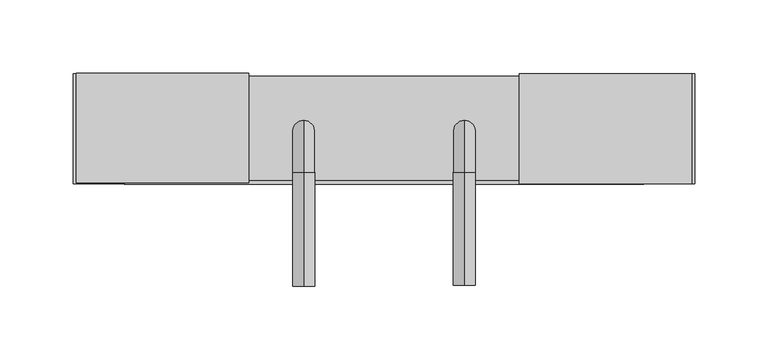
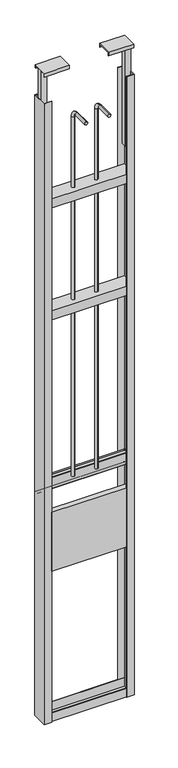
"""IFC4 building model written with IfcOpenShell, lengths in millimetres: flow terminal geometry, NLRS_74_PF_TLB_ASM WST Type C wandmengkraan_Geberit : ASM WST Type C."""

from ifc_helpers import new_model, si_unit, point, frame, frame_2d, origin, place, context, project, spatial, polyline, circle_curve, ellipse_curve, trimmed, segment, composite_curve, outline, extrude, faceted_brep, source, transform, mapped, element, save
from ifc_brep_helpers import plane_surface, cylinder_surface, revolved_surface, advanced_brep


def flow_terminal_cd35f01a(model_context):
    return source(origin(), model_context, "Body", "SolidModel", [
        extrude(outline(polyline([(1031.0814924, 2.0), (997.0814924, 2.0), (997.0814924, 0.0), (642.0814924, 0.0), (642.0814924, 2.0), (608.0814924, 2.0), (608.0814924, 24.0), (1031.0814924, 24.0), (1031.0814924, 2.0)])), frame((0.0, 0.0, 702.5), z_axis=(0.0, 0.0, 1.0), x_axis=(1.0, 0.0, 0.0)), (0.0, 0.0, 1.0), 295.0),
        extrude(outline(polyline([(2.5, 2516.0), (2.5, 2560.0), (73.5, 2560.0), (73.5, 2516.0), (71.5, 2516.0), (71.5, 2558.0), (4.5, 2558.0), (4.5, 2516.0), (2.5, 2516.0)])), frame((612.0814924, 0.0, 0.0), z_axis=(1.0, 0.0, 0.0), x_axis=(0.0, 1.0, 0.0)), (0.0, 0.0, 1.0), 415.0),
        extrude(outline(polyline([(2.5, 1956.0), (2.5, 2000.0), (73.5, 2000.0), (73.5, 1956.0), (71.5, 1956.0), (71.5, 1998.0), (4.5, 1998.0), (4.5, 1956.0), (2.5, 1956.0)])), frame((612.0814924, 0.0, 0.0), z_axis=(1.0, 0.0, 0.0), x_axis=(0.0, 1.0, 0.0)), (0.0, 0.0, 1.0), 415.0),
        extrude(outline(polyline([(997.0814924, 0.0), (997.0814924, 2.0), (1030.0814924, 2.0), (1030.0814924, 73.0), (997.0814924, 73.0), (997.0814924, 75.0), (1032.0814924, 75.0), (1032.0814924, 0.0), (997.0814924, 0.0)])), frame((0.0, 0.0, -50.0), z_axis=(0.0, 0.0, 1.0), x_axis=(1.0, 0.0, 0.0)), (0.0, 0.0, 1.0), 3100.0),
        extrude(outline(polyline([(642.0814924, 0.0), (607.0814924, 0.0), (607.0814924, 75.0), (642.0814924, 75.0), (642.0814924, 73.0), (609.0814924, 73.0), (609.0814924, 2.0), (642.0814924, 2.0), (642.0814924, 0.0)])), frame((0.0, 0.0, -50.0), z_axis=(0.0, 0.0, 1.0), x_axis=(1.0, 0.0, 0.0)), (0.0, 0.0, 1.0), 3100.0),
        extrude(outline(polyline([(2.0, -6.0), (4.0, -6.0), (4.0, -48.0), (71.0, -48.0), (71.0, -6.0), (73.0, -6.0), (73.0, -50.0), (2.0, -50.0), (2.0, -6.0)])), frame((612.0814924, 0.0, 0.0), z_axis=(1.0, 0.0, 0.0), x_axis=(0.0, 1.0, 0.0)), (0.0, 0.0, 1.0), 415.0),
        faceted_brep([(912.0814924, 0.0, 3183.0), (912.0814924, 0.0, 3200.0), (912.0814924, 75.0, 3200.0), (912.0814924, 75.0, 3183.0), (912.0814924, 73.0, 3183.0), (912.0814924, 73.0, 3198.0), (912.0814924, 2.0, 3198.0), (912.0814924, 2.0, 3183.0), (1030.0814924, 0.0, 3183.0), (1030.0814924, 2.0, 3183.0), (1030.0814924, 2.0, 3198.0), (1030.0814924, 25.0, 3198.0), (1030.0814924, 25.0, 2683.0), (1030.0814924, 50.0, 2683.0), (1030.0814924, 50.0, 3198.0), (1030.0814924, 73.0, 3198.0), (1030.0814924, 73.0, 3183.0), (1030.0814924, 75.0, 3183.0), (1030.0814924, 75.0, 3200.0), (1030.0814924, 0.0, 3200.0), (1005.0814924, 50.0, 3198.0), (1005.0814924, 25.0, 3198.0), (1005.0814924, 25.0, 2683.0), (1005.0814924, 50.0, 2683.0)], [[[0, 1, 2, 3, 4, 5, 6, 7]], [[8, 9, 10, 11, 12, 13, 14, 15, 16, 17, 18, 19]], [[0, 7, 9, 8]], [[7, 6, 10, 9]], [[6, 5, 15, 14, 20, 21, 11, 10]], [[5, 4, 16, 15]], [[4, 3, 17, 16]], [[3, 2, 18, 17]], [[2, 1, 19, 18]], [[1, 0, 8, 19]], [[22, 23, 13, 12]], [[22, 12, 11, 21]], [[13, 23, 20, 14]], [[23, 22, 21, 20]]]),
        faceted_brep([(727.0814924, 0.5, 3183.0), (727.0814924, 2.5, 3183.0), (727.0814924, 2.5, 3198.0), (727.0814924, 73.5, 3198.0), (727.0814924, 73.5, 3183.0), (727.0814924, 75.5, 3183.0), (727.0814924, 75.5, 3200.0), (727.0814924, 0.5, 3200.0), (609.0814924, 0.5, 3183.0), (609.0814924, 0.5, 3200.0), (609.0814924, 75.5, 3200.0), (609.0814924, 75.5, 3183.0), (609.0814924, 73.5, 3183.0), (609.0814924, 73.5, 3198.0), (609.0814924, 50.5, 3198.0), (609.0814924, 50.5, 2683.0), (609.0814924, 25.5, 2683.0), (609.0814924, 25.5, 3198.0), (609.0814924, 2.5, 3198.0), (609.0814924, 2.5, 3183.0), (634.0814924, 25.5, 3198.0), (634.0814924, 50.5, 3198.0), (634.0814924, 25.5, 2683.0), (634.0814924, 50.5, 2683.0)], [[[0, 1, 2, 3, 4, 5, 6, 7]], [[8, 9, 10, 11, 12, 13, 14, 15, 16, 17, 18, 19]], [[0, 8, 19, 1]], [[1, 19, 18, 2]], [[2, 18, 17, 20, 21, 14, 13, 3]], [[3, 13, 12, 4]], [[4, 12, 11, 5]], [[5, 11, 10, 6]], [[6, 10, 9, 7]], [[7, 9, 8, 0]], [[22, 16, 15, 23]], [[22, 20, 17, 16]], [[15, 14, 21, 23]], [[23, 21, 20, 22]]]),
        extrude(outline(composite_curve([segment(trimmed(circle_curve(frame_2d((71.3732031, 1128.9972084)), 2.1267969), [point((73.5, 1128.9972084))], [point((71.3732031, 1126.8704115))], False, "CARTESIAN"), True, "CONTINUOUS"), segment(polyline([(71.3732031, 1126.8704115), (56.3732031, 1126.8704115)]), True, "CONTINUOUS"), segment(trimmed(circle_curve(frame_2d((56.3732031, 1126.1865275)), 0.683884), [point((56.3732031, 1126.8704115))], [point((55.6893191, 1126.1865275))], True, "CARTESIAN"), True, "CONTINUOUS"), segment(polyline([(55.6893191, 1126.1865275), (55.6893191, 1073.752503)]), True, "CONTINUOUS"), segment(trimmed(circle_curve(frame_2d((56.3874999, 1073.752503)), 0.6981808), [point((55.6893191, 1073.752503))], [point((56.3874999, 1073.0543222))], True, "CARTESIAN"), True, "CONTINUOUS"), segment(polyline([(56.3874999, 1073.0543222), (71.3874999, 1073.0543222)]), True, "CONTINUOUS"), segment(trimmed(circle_curve(frame_2d((71.3874999, 1070.9418222)), 2.1125001), [point((71.3874999, 1073.0543222))], [point((73.5, 1070.9418222))], False, "CARTESIAN"), True, "CONTINUOUS"), segment(polyline([(73.5, 1070.9418222), (73.5, 1063.9811834), (71.5, 1063.9811834), (71.5, 1070.318655)]), True, "CONTINUOUS"), segment(trimmed(circle_curve(frame_2d((70.7643328, 1070.318655)), 0.7356672), [point((71.5, 1070.318655))], [point((70.7643328, 1071.0543222))], True, "CARTESIAN"), True, "CONTINUOUS"), segment(polyline([(70.7643328, 1071.0543222), (55.7863096, 1071.0543222)]), True, "CONTINUOUS"), segment(trimmed(circle_curve(frame_2d((55.7863096, 1073.1513126)), 2.0969904), [point((55.7863096, 1071.0543222))], [point((53.6893191, 1073.1513126))], False, "CARTESIAN"), True, "CONTINUOUS"), segment(polyline([(53.6893191, 1073.1513126), (53.6893191, 1126.7734211)]), True, "CONTINUOUS"), segment(trimmed(circle_curve(frame_2d((55.7863096, 1126.7734211)), 2.0969904), [point((53.6893191, 1126.7734211))], [point((55.7863096, 1128.8704115))], False, "CARTESIAN"), True, "CONTINUOUS"), segment(polyline([(55.7863096, 1128.8704115), (70.7904457, 1128.8704115)]), True, "CONTINUOUS"), segment(trimmed(circle_curve(frame_2d((70.7904457, 1129.5799658)), 0.7095543), [point((70.7904457, 1128.8704115))], [point((71.5, 1129.5799658))], True, "CARTESIAN"), True, "CONTINUOUS"), segment(polyline([(71.5, 1129.5799658), (71.5, 1135.9811834), (73.5, 1135.9811834), (73.5, 1128.9972084)]), True, "CONTINUOUS")], self_intersect=False)), frame((609.5814924, 0.0, 0.0), z_axis=(1.0, 0.0, 0.0), x_axis=(0.0, 1.0, 0.0)), (0.0, 0.0, 1.0), 420.0),
        advanced_brep(
        [(874.5814924, 28.1893191, 1118.0188166), (874.5814924, 43.1893191, 1118.0188166), (874.5814924, 28.1893191, 2912.0), (874.5814924, 43.1893191, 2912.0), (874.5814924, 7.6893191, 2947.5), (874.5814924, 7.6893191, 2932.5), (874.5814924, -69.5, 2932.5), (874.5814924, -69.5, 2947.5)],
        [
            (0, 1, circle_curve(frame((874.5814924, 35.6893191, 1118.0188166), z_axis=(0.0, 0.0, -1.0), x_axis=(0.0, 1.0, 0.0)), 7.5)),
            (1, 0, circle_curve(frame((874.5814924, 35.6893191, 1118.0188166), z_axis=(0.0, 0.0, -1.0), x_axis=(0.0, 1.0, 0.0)), 7.5)),
            (0, 2),
            (2, 3, circle_curve(frame((874.5814924, 35.6893191, 2912.0), z_axis=(0.0, 0.0, -1.0), x_axis=(0.0, 1.0, 0.0)), 7.5)),
            (3, 1),
            (3, 2, circle_curve(frame((874.5814924, 35.6893191, 2912.0), z_axis=(0.0, 0.0, -1.0), x_axis=(0.0, 1.0, 0.0)), 7.5)),
            (4, 3, circle_curve(frame((874.5814924, 7.6893191, 2912.0), z_axis=(-1.0, 0.0, 0.0), x_axis=(0.0, 1.0, 0.0)), 35.5)),
            (2, 5, circle_curve(frame((874.5814924, 7.6893191, 2912.0), z_axis=(1.0, 0.0, 0.0), x_axis=(0.0, 1.0, 0.0)), 20.5)),
            (5, 4, circle_curve(frame((874.5814924, 7.6893191, 2940.0), z_axis=(0.0, 1.0, 0.0), x_axis=(0.0, 0.0, 1.0)), 7.5)),
            (4, 5, circle_curve(frame((874.5814924, 7.6893191, 2940.0), z_axis=(0.0, 1.0, 0.0), x_axis=(0.0, 0.0, 1.0)), 7.5)),
            (6, 7, circle_curve(frame((874.5814924, -69.5, 2940.0), z_axis=(0.0, -1.0, 0.0), x_axis=(0.0, 0.0, 1.0)), 7.5)),
            (7, 6, circle_curve(frame((874.5814924, -69.5, 2940.0), z_axis=(0.0, -1.0, 0.0), x_axis=(0.0, 0.0, 1.0)), 7.5)),
            (5, 6),
            (7, 4),
        ],
        [
            plane_surface(frame((874.5814924, 35.6893191, 1118.0188166), z_axis=(0.0, 0.0, -1.0), x_axis=(-1.0, 0.0, 0.0))),
            cylinder_surface(frame((874.5814924, 35.6893191, 1118.0188166), z_axis=(0.0, 0.0, -1.0), x_axis=(0.0, 1.0, 0.0)), 7.5),
            revolved_surface(trimmed(ellipse_curve(frame((874.5814924, 35.6893191, 2912.0), z_axis=(0.0, 0.0, -1.0), x_axis=(0.0, 1.0, 0.0)), 7.5, 7.5), [point((874.5814924, 28.1893191, 2912.0))], [point((874.5814924, 43.1893191, 2912.0))], True, "CARTESIAN"), (874.5814924, 7.6893191, 2912.0), (1.0, 0.0, 0.0)),
            revolved_surface(trimmed(ellipse_curve(frame((874.5814924, 35.6893191, 2912.0), z_axis=(0.0, 0.0, -1.0), x_axis=(0.0, 1.0, 0.0)), 7.5, 7.5), [point((874.5814924, 43.1893191, 2912.0))], [point((874.5814924, 28.1893191, 2912.0))], True, "CARTESIAN"), (874.5814924, 7.6893191, 2912.0), (1.0, 0.0, 0.0)),
            plane_surface(frame((874.5814924, -69.5, 2940.0), z_axis=(0.0, -1.0, 0.0), x_axis=(-1.0, 0.0, 0.0))),
            cylinder_surface(frame((874.5814924, 7.6893191, 2940.0), z_axis=(0.0, 1.0, 0.0), x_axis=(0.0, 0.0, 1.0)), 7.5),
        ],
        [
            (0, [[1, 2]]),
            (1, [[-1, 3, 4, 5]]),
            (1, [[-2, -5, 6, -3]]),
            (2, [[7, -4, 8, 9]]),
            (3, [[-8, -6, -7, 10]]),
            (4, [[11, 12]]),
            (5, [[-9, 13, -12, 14]]),
            (5, [[-10, -14, -11, -13]]),
        ],
    ),
        advanced_brep(
        [(764.5814924, 28.1893191, 1118.0188166), (764.5814924, 43.1893191, 1118.0188166), (764.5814924, 28.1893191, 2912.0), (764.5814924, 43.1893191, 2912.0), (764.5814924, 7.6893191, 2947.5), (764.5814924, 7.6893191, 2932.5), (764.5814924, -70.0, 2932.5), (764.5814924, -70.0, 2947.5)],
        [
            (0, 1, circle_curve(frame((764.5814924, 35.6893191, 1118.0188166), z_axis=(0.0, 0.0, -1.0), x_axis=(0.0, 1.0, 0.0)), 7.5)),
            (1, 0, circle_curve(frame((764.5814924, 35.6893191, 1118.0188166), z_axis=(0.0, 0.0, -1.0), x_axis=(0.0, 1.0, 0.0)), 7.5)),
            (0, 2),
            (2, 3, circle_curve(frame((764.5814924, 35.6893191, 2912.0), z_axis=(0.0, 0.0, -1.0), x_axis=(0.0, 1.0, 0.0)), 7.5)),
            (3, 1),
            (3, 2, circle_curve(frame((764.5814924, 35.6893191, 2912.0), z_axis=(0.0, 0.0, -1.0), x_axis=(0.0, 1.0, 0.0)), 7.5)),
            (4, 3, circle_curve(frame((764.5814924, 7.6893191, 2912.0), z_axis=(-1.0, 0.0, 0.0), x_axis=(0.0, 1.0, 0.0)), 35.5)),
            (2, 5, circle_curve(frame((764.5814924, 7.6893191, 2912.0), z_axis=(1.0, 0.0, 0.0), x_axis=(0.0, 1.0, 0.0)), 20.5)),
            (5, 4, circle_curve(frame((764.5814924, 7.6893191, 2940.0), z_axis=(0.0, 1.0, 0.0), x_axis=(0.0, 0.0, 1.0)), 7.5)),
            (4, 5, circle_curve(frame((764.5814924, 7.6893191, 2940.0), z_axis=(0.0, 1.0, 0.0), x_axis=(0.0, 0.0, 1.0)), 7.5)),
            (6, 7, circle_curve(frame((764.5814924, -70.0, 2940.0), z_axis=(0.0, -1.0, 0.0), x_axis=(0.0, 0.0, 1.0)), 7.5)),
            (7, 6, circle_curve(frame((764.5814924, -70.0, 2940.0), z_axis=(0.0, -1.0, 0.0), x_axis=(0.0, 0.0, 1.0)), 7.5)),
            (5, 6),
            (7, 4),
        ],
        [
            plane_surface(frame((819.5814924, 35.6893191, 1118.0188166), z_axis=(0.0, 0.0, -1.0), x_axis=(-1.0, 0.0, 0.0))),
            cylinder_surface(frame((764.5814924, 35.6893191, 1118.0188166), z_axis=(0.0, 0.0, -1.0), x_axis=(0.0, 1.0, 0.0)), 7.5),
            revolved_surface(trimmed(ellipse_curve(frame((764.5814924, 35.6893191, 2912.0), z_axis=(0.0, 0.0, -1.0), x_axis=(0.0, 1.0, 0.0)), 7.5, 7.5), [point((764.5814924, 28.1893191, 2912.0))], [point((764.5814924, 43.1893191, 2912.0))], True, "CARTESIAN"), (819.5814924, 7.6893191, 2912.0), (1.0, 0.0, 0.0)),
            revolved_surface(trimmed(ellipse_curve(frame((764.5814924, 35.6893191, 2912.0), z_axis=(0.0, 0.0, -1.0), x_axis=(0.0, 1.0, 0.0)), 7.5, 7.5), [point((764.5814924, 43.1893191, 2912.0))], [point((764.5814924, 28.1893191, 2912.0))], True, "CARTESIAN"), (819.5814924, 7.6893191, 2912.0), (1.0, 0.0, 0.0)),
            plane_surface(frame((819.5814924, -70.0, 2940.0), z_axis=(0.0, -1.0, 0.0), x_axis=(-1.0, 0.0, 0.0))),
            cylinder_surface(frame((764.5814924, 7.6893191, 2940.0), z_axis=(0.0, 1.0, 0.0), x_axis=(0.0, 0.0, 1.0)), 7.5),
        ],
        [
            (0, [[1, 2]]),
            (1, [[-1, 3, 4, 5]]),
            (1, [[-2, -5, 6, -3]]),
            (2, [[7, -4, 8, 9]]),
            (3, [[-8, -6, -7, 10]]),
            (4, [[11, 12]]),
            (5, [[-9, 13, -12, 14]]),
            (5, [[-10, -14, -11, -13]]),
        ],
    ),
    ])


if __name__ == "__main__":
    model = new_model("IFC4")
    model_context = context("Model", 3, world=origin())
    ifc_project = project(units=[si_unit("LENGTHUNIT", "METRE", prefix="MILLI")], contexts=[model_context])
    site = spatial("IfcSite", under=ifc_project)
    building = spatial("IfcBuilding", under=site)
    placement = place(None, origin())
    flow_terminal_shape = flow_terminal_cd35f01a(model_context)
    element("IfcFlowTerminal", 1, ObjectType="NLRS_74_PF_TLB_ASM WST Type C wandmengkraan_Geberit : ASM WST Type C", at=placement, inside=building, context=model_context, shape_type="MappedRepresentation", body=[
        mapped(flow_terminal_shape, transform((0.0, 0.0, 0.0), x_axis=(1.0, 0.0, 0.0), y_axis=(0.0, 1.0, 0.0), z_axis=(0.0, 0.0, 1.0))),
    ])
    save(model, "model.ifc")
